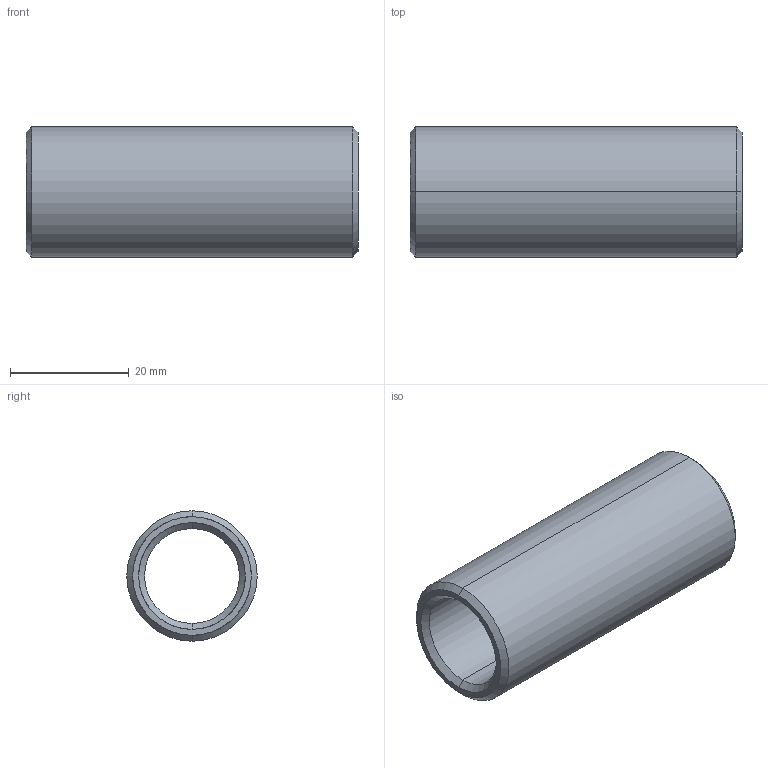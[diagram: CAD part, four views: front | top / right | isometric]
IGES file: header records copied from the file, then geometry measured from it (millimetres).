
Start section: START RECORD GO HERE.
Global section: file name: 352-16X56.igs; native system: DASSAULT SYSTEMES CATIA V5 R20 - www.3ds.com; preprocessor: CATIA Version 5 Release 20 ; author: Utente; organization: NB04-ASUS; date: 20210410.110416; units: millimetre
Bounding box: 56 x 22 x 22 mm (x, y, z)
Surface area: 6910.6 mm2 (no closed solid volume)
Topology: 0 solids, 0 shells, 14 faces, 88 edges, 88 vertices
Faces by surface type: revolution 12, plane 2
